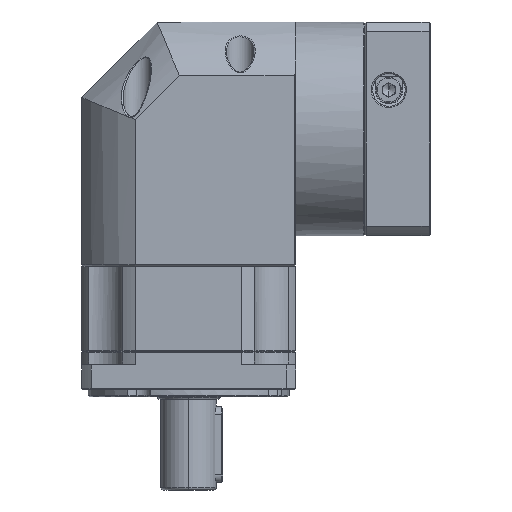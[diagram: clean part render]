
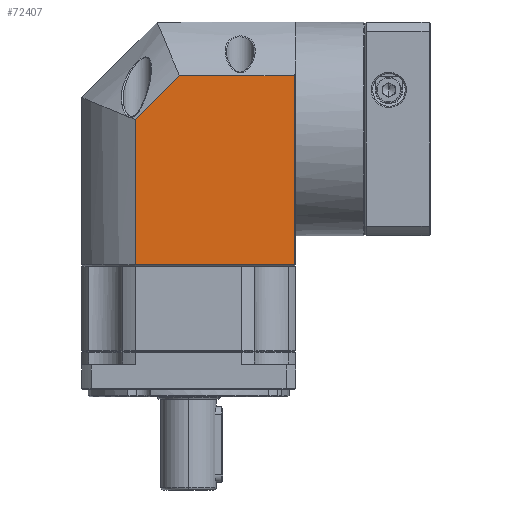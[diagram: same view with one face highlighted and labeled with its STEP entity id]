
A CAD part, front view. The second image highlights one B-rep face of the part: STEP entity #72407.
In plain terms, the highlighted planar face has unit normal (0, -1, 0).
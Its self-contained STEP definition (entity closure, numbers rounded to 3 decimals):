
#7050 = VERTEX_POINT ( 'NONE', #82387 ) ;
#9512 = EDGE_CURVE ( 'NONE', #153902, #151429, #18925, .T. ) ;
#14130 = DIRECTION ( 'NONE',  ( 0., 1., 0. ) ) ;
#18925 = LINE ( 'NONE', #139153, #90919 ) ;
#37402 = CARTESIAN_POINT ( 'NONE',  ( -13.734, 115.354, 60.654 ) ) ;
#40179 = LINE ( 'NONE', #152571, #71905 ) ;
#46756 = DIRECTION ( 'NONE',  ( 0., 0., -1. ) ) ;
#50903 = EDGE_CURVE ( 'NONE', #66362, #153902, #67883, .T. ) ;
#51095 = DIRECTION ( 'NONE',  ( 0., 0., 1. ) ) ;
#53680 = VERTEX_POINT ( 'NONE', #85130 ) ;
#56562 = ORIENTED_EDGE ( 'NONE', *, *, #164826, .F. ) ;
#57400 = ORIENTED_EDGE ( 'NONE', *, *, #74785, .F. ) ;
#57953 = DIRECTION ( 'NONE',  ( 1., 0., 0. ) ) ;
#63625 = VECTOR ( 'NONE', #51095, 1000. ) ;
#66362 = VERTEX_POINT ( 'NONE', #111982 ) ;
#67883 = LINE ( 'NONE', #37402, #63625 ) ;
#69893 = LINE ( 'NONE', #132466, #137727 ) ;
#70446 = CARTESIAN_POINT ( 'NONE',  ( 3.796, 115.354, 39.368 ) ) ;
#71905 = VECTOR ( 'NONE', #57953, 1000. ) ;
#72407 = ADVANCED_FACE ( 'NONE', ( #94368 ), #146757, .F. ) ;
#74785 = EDGE_CURVE ( 'NONE', #151429, #53680, #40179, .T. ) ;
#82387 = CARTESIAN_POINT ( 'NONE',  ( 49.479, 115.354, -35.846 ) ) ;
#85130 = CARTESIAN_POINT ( 'NONE',  ( 49.479, 115.354, 39.368 ) ) ;
#90919 = VECTOR ( 'NONE', #134527, 1000. ) ;
#90937 = DIRECTION ( 'NONE',  ( 1., 0., 0. ) ) ;
#94368 = FACE_OUTER_BOUND ( 'NONE', #110122, .T. ) ;
#95225 = CARTESIAN_POINT ( 'NONE',  ( 49.979, 115.354, 60.654 ) ) ;
#99537 = ORIENTED_EDGE ( 'NONE', *, *, #147568, .T. ) ;
#108849 = DIRECTION ( 'NONE',  ( -1., 0., 0. ) ) ;
#110122 = EDGE_LOOP ( 'NONE', ( #99537, #56562, #57400, #142187, #152760 ) ) ;
#111982 = CARTESIAN_POINT ( 'NONE',  ( -13.734, 115.354, -35.846 ) ) ;
#113488 = LINE ( 'NONE', #141404, #149501 ) ;
#132466 = CARTESIAN_POINT ( 'NONE',  ( 49.979, 115.354, -35.846 ) ) ;
#134527 = DIRECTION ( 'NONE',  ( 0.707, 0., 0.707 ) ) ;
#137727 = VECTOR ( 'NONE', #90937, 1000. ) ;
#139153 = CARTESIAN_POINT ( 'NONE',  ( -13.734, 115.354, 21.837 ) ) ;
#141404 = CARTESIAN_POINT ( 'NONE',  ( 49.479, 115.354, 60.654 ) ) ;
#142187 = ORIENTED_EDGE ( 'NONE', *, *, #9512, .F. ) ;
#146757 = PLANE ( 'NONE',  #165952 ) ;
#147568 = EDGE_CURVE ( 'NONE', #66362, #7050, #69893, .T. ) ;
#149501 = VECTOR ( 'NONE', #46756, 1000. ) ;
#150221 = CARTESIAN_POINT ( 'NONE',  ( -13.734, 115.354, 21.837 ) ) ;
#151429 = VERTEX_POINT ( 'NONE', #70446 ) ;
#152571 = CARTESIAN_POINT ( 'NONE',  ( 49.979, 115.354, 39.368 ) ) ;
#152760 = ORIENTED_EDGE ( 'NONE', *, *, #50903, .F. ) ;
#153902 = VERTEX_POINT ( 'NONE', #150221 ) ;
#164826 = EDGE_CURVE ( 'NONE', #53680, #7050, #113488, .T. ) ;
#165952 = AXIS2_PLACEMENT_3D ( 'NONE', #95225, #14130, #108849 ) ;
